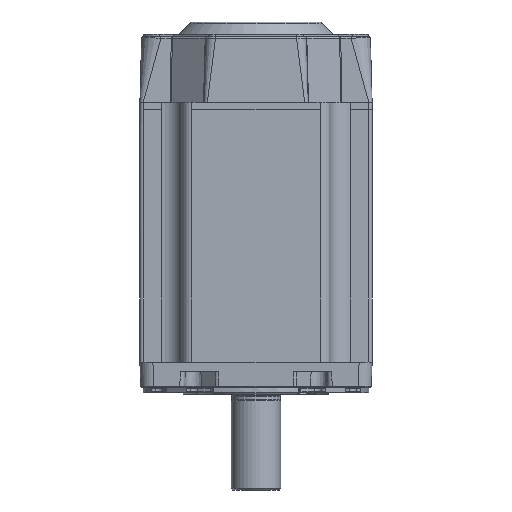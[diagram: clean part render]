
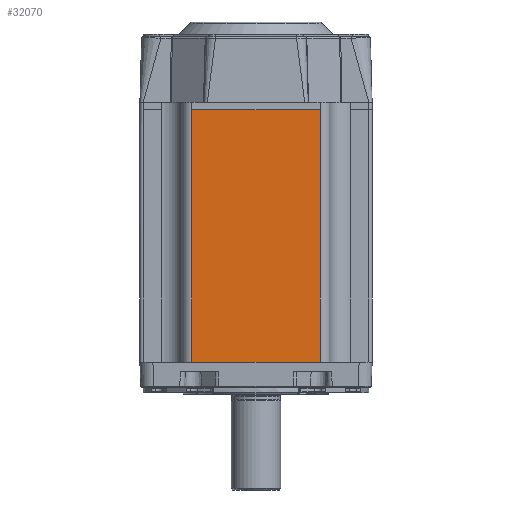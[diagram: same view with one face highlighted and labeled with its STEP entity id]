
A CAD part, front view. The second image highlights one B-rep face of the part: STEP entity #32070.
In plain terms, the highlighted planar face has unit normal (0, -1, 0).
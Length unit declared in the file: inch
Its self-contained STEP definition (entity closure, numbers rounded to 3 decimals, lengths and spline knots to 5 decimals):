
#29850=CARTESIAN_POINT('',(1.2275,-2.225,-4.84));
#29851=VERTEX_POINT('',#29850);
#29858=CARTESIAN_POINT('',(-1.2275,-2.225,-4.84));
#29859=VERTEX_POINT('',#29858);
#29860=CARTESIAN_POINT('',(-1.2275,-2.225,-4.84));
#29861=DIRECTION('',(1.0,0.0,0.0));
#29862=VECTOR('',#29861,2.455);
#29863=LINE('',#29860,#29862);
#29864=EDGE_CURVE('',#29859,#29851,#29863,.T.);
#31971=CARTESIAN_POINT('',(1.2275,-2.225,0.));
#31972=VERTEX_POINT('',#31971);
#31973=CARTESIAN_POINT('',(1.2275,-2.225,0.));
#31974=DIRECTION('',(0.0,0.0,-1.0));
#31975=VECTOR('',#31974,4.84);
#31976=LINE('',#31973,#31975);
#31977=EDGE_CURVE('',#31972,#29851,#31976,.T.);
#32047=CARTESIAN_POINT('',(1.415,-2.225,0.0));
#32048=DIRECTION('',(0.0,-1.0,0.0));
#32049=DIRECTION('',(0.0,0.0,-1.0));
#32050=AXIS2_PLACEMENT_3D('',#32047,#32048,#32049);
#32051=PLANE('',#32050);
#32052=CARTESIAN_POINT('',(-1.2275,-2.225,0.));
#32053=VERTEX_POINT('',#32052);
#32054=CARTESIAN_POINT('',(1.2275,-2.225,0.));
#32055=DIRECTION('',(-1.0,0.0,0.0));
#32056=VECTOR('',#32055,2.455);
#32057=LINE('',#32054,#32056);
#32058=EDGE_CURVE('',#31972,#32053,#32057,.T.);
#32059=ORIENTED_EDGE('',*,*,#32058,.T.);
#32060=CARTESIAN_POINT('',(-1.2275,-2.225,-4.84));
#32061=DIRECTION('',(0.0,0.0,1.0));
#32062=VECTOR('',#32061,4.84);
#32063=LINE('',#32060,#32062);
#32064=EDGE_CURVE('',#29859,#32053,#32063,.T.);
#32065=ORIENTED_EDGE('',*,*,#32064,.F.);
#32066=ORIENTED_EDGE('',*,*,#29864,.T.);
#32067=ORIENTED_EDGE('',*,*,#31977,.F.);
#32068=EDGE_LOOP('',(#32059,#32065,#32066,#32067));
#32069=FACE_OUTER_BOUND('',#32068,.T.);
#32070=ADVANCED_FACE('',(#32069),#32051,.T.);
